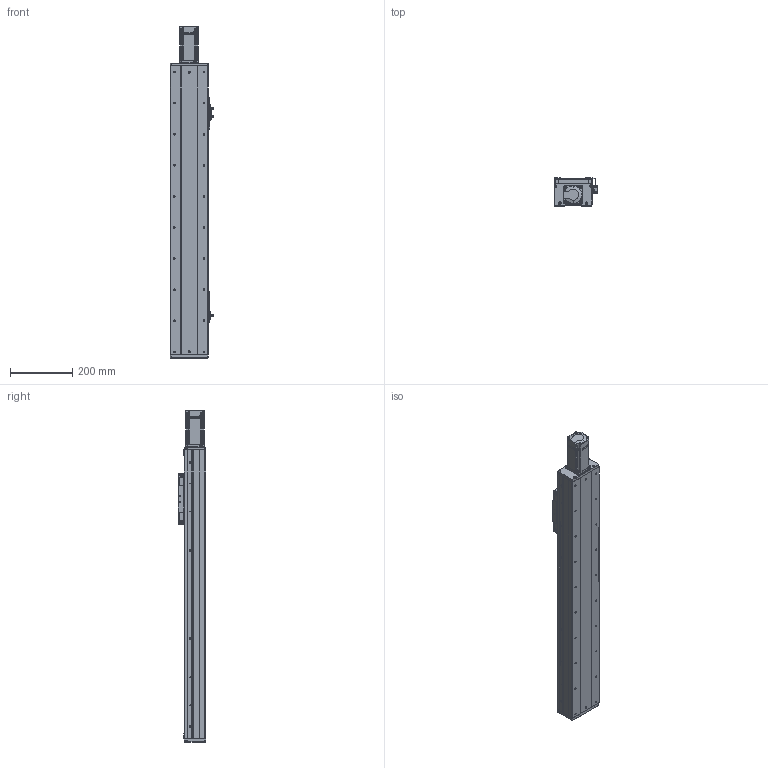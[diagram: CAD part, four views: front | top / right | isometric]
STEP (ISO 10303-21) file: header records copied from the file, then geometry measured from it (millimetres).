
FILE_DESCRIPTION (( 'STEP AP203' ), '1' );
FILE_NAME ('RY120F-L1620-300-MK.SLDASM_650.step', '2021-03-02T06:02:10', ( '盈信电脑' ), ( '东莞市道滘镇水果街19号' ), 'SwSTEP 2.0', 'SolidWorks 2012', '' );
FILE_SCHEMA (( 'CONFIG_CONTROL_DESIGN' ));
Products named in the file (19): 滅袉蝶18-28; RY120F-L1620-300-MK.SLDASM_650; RY120F-臏賑輸 16蹟譫; RY80俋离覜茼え; FY120F詩湍揤踡輸; 672嫖萇羲壽假蚾釱; RY120F綴裔啣(臏璃ㄘ; RY120F-詩湍幗謫粣; 覜茼ん672; RY120F祥凄詩滅鳥裔; RY120F眻蟀ヶ裔啣; 侂狟400W侜督萇儂; 滅袉蝶18-24; RY120F滅鳥詩湍-300-MK_650; RY120F-臏賑輸奻釱; 15; 絳寢賑輸EGH15; RY120F-300-倰第裔啣_650; RY120F-300-倰第菁釱_650
Assembly tree (25 placements, depth 3):
  RY120F-L1620-300-MK.SLDASM_650
    RY120F-300-倰第菁釱_650
    RY120F-300-倰第裔啣_650  x2
    RY120F滅鳥詩湍-300-MK_650
    絳寢賑輸EGH15  x2
    RY120F-臏賑輸奻釱
    侂狟400W侜督萇儂
      15
    RY120F眻蟀ヶ裔啣
    RY120F祥凄詩滅鳥裔
    滅袉蝶18-24
    RY120F綴裔啣(臏璃ㄘ
    RY120F-詩湍幗謫粣
    覜茼ん672  x3
    672嫖萇羲壽假蚾釱  x2
    RY80俋离覜茼え
    FY120F詩湍揤踡輸  x2
    RY120F-臏賑輸 16蹟譫
    滅袉蝶18-28  x2
Bounding box: 140.35 x 89 x 1068.5 mm (x, y, z)
Volume: 3373858.2 mm3; surface area: 1184502.1 mm2
Topology: 24 solids, 24 shells, 2153 faces, 5749 edges, 3693 vertices
Faces by surface type: plane 966, cylinder 962, cone 207, bspline 18
Entity records: 57382 total; most frequent: CARTESIAN_POINT 10237, DIRECTION 9751, ORIENTED_EDGE 9102, EDGE_CURVE 4551, AXIS2_PLACEMENT_3D 3525, VERTEX_POINT 2977, LINE 2701, VECTOR 2701
